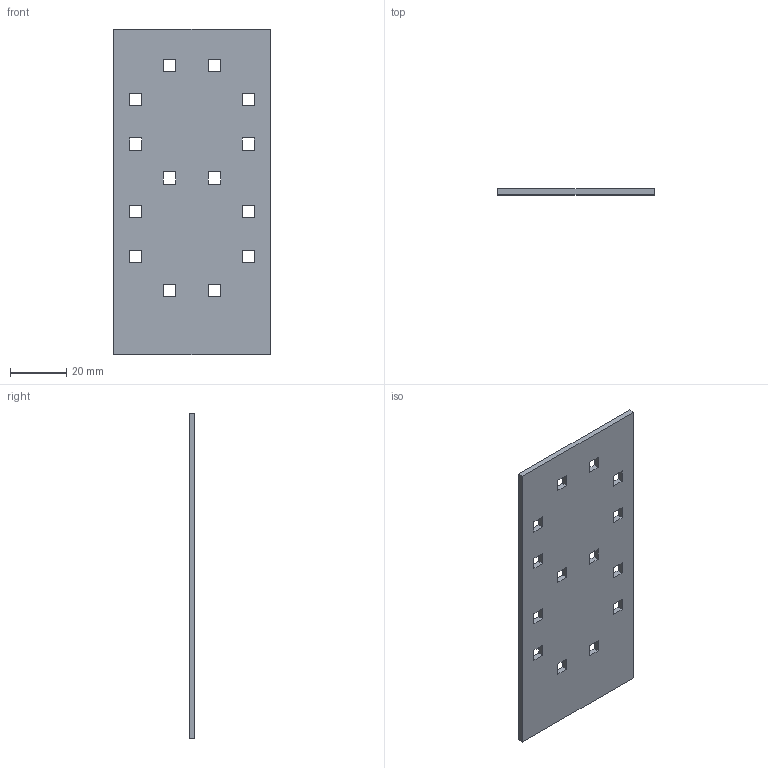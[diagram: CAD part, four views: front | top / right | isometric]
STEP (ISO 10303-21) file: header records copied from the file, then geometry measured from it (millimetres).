
FILE_DESCRIPTION(/* description */ ('STEP AP242','CAx-IF Rec.Pracs.---Representation and Presentation of Product Manufacturing Information (PMI)---4.0---2014-10-13','CAx-IF Rec.Pracs.---3D Tessellated Geometry---0.4---2014-09-14','2;1'),/* implementation_level */ '2;1');
FILE_NAME(/* name */ 'Part Studio 1 - Inner Plate',/* time_stamp */ '2025-09-04T05:47:28Z',/* author */ (''),/* organization */ (''),/* preprocessor_version */ 'ST-DEVELOPER v20',/* originating_system */ 'ONSHAPE BY PTC INC, 1.203',/* authorisation */ ' ');
FILE_SCHEMA (('AP242_MANAGED_MODEL_BASED_3D_ENGINEERING_MIM_LF { 1 0 10303 442 1 1 4 }'));
Length unit declared in the file: metre
Products named in the file (1): Inner Plate
Bounding box: 55.8 x 2 x 115.8 mm (x, y, z)
Volume: 12381.2 mm3; surface area: 13560.4 mm2
Topology: 1 solids, 1 shells, 62 faces, 180 edges, 120 vertices
Faces by surface type: plane 62
Entity records: 2082 total; most frequent: CARTESIAN_POINT 363, ORIENTED_EDGE 360, DIRECTION 306, EDGE_CURVE 180, LINE 180, VECTOR 180, VERTEX_POINT 120, EDGE_LOOP 90
